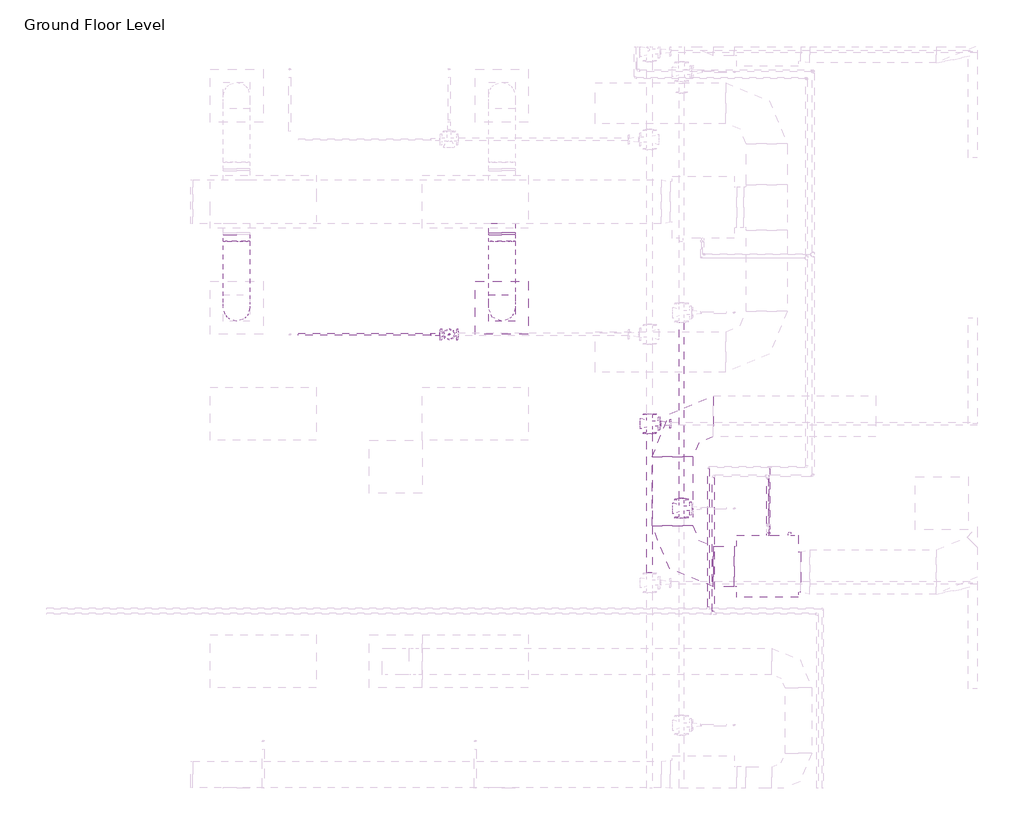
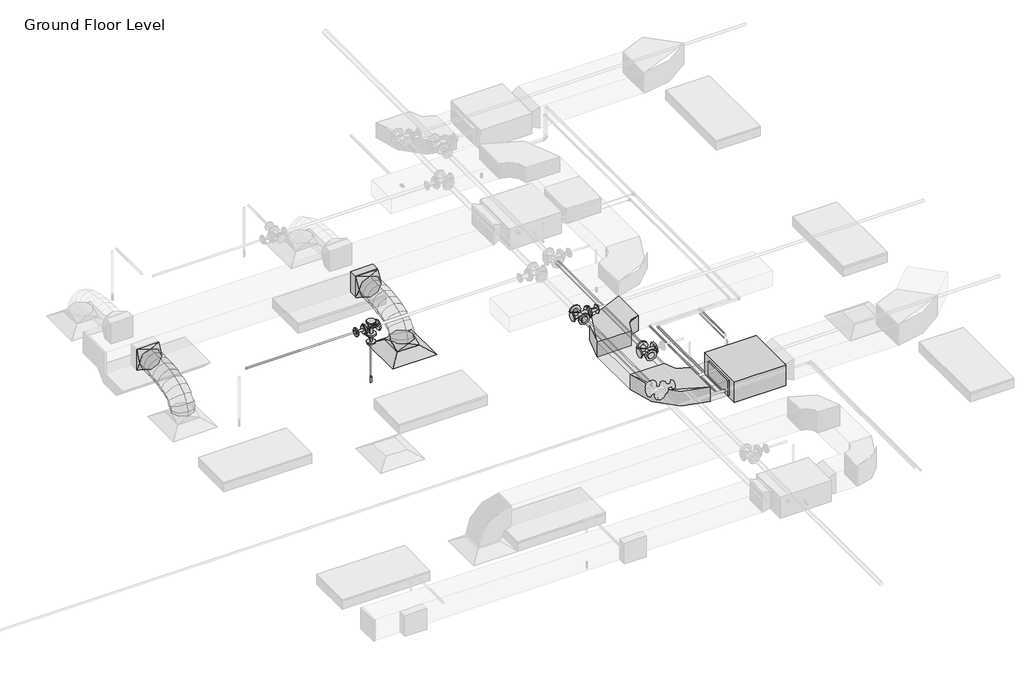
# One storey, part 59 of 73: 10 pipe segments, 7 pipe fittings, 6 duct fittings, 5 duct segments, 1 air terminal, 1 fire suppression terminal, 1 proxy.
"""IFC4 building model written with IfcOpenShell, lengths in millimetres."""

from ifc_helpers import new_model, si_unit, point, frame, frame_2d, origin, place, context, project, spatial, polyline, circle_curve, ellipse_curve, trimmed, segment, composite_curve, outline, extrude, transform, mapped, element, save
from ifc_brep_helpers import plane_surface, cylinder_surface, advanced_brep
from components import m_return_diffuser_600_x_600_face_300_x_300_connection_ff221211, fcu_daikin_iu_bad131e0, m_rectangular_elbow_radius_1_w_54c96895, m_rectangular_takeoff_standard_cb0ccb98, m_rectangular_to_round_transition_angle_45_degree_641efff0, m_sprinkler_dry_pendent_hosted_15_mm_dry_pendent_9bda8e11, m_elbow_generic_standard_2a704253, m_reducer_flanged_cs_class_150_standard_ccf252ad, m_reducer_flanged_cs_class_150_standard_a7631c35, m_tee_round_base_flanged_cs_class_150_standard_dd767e04, m_tee_round_base_flanged_cs_class_150_standard_7e5987a1, m_tee_round_base_flanged_cs_class_150_standard_ab36f383

model = new_model("IFC4")

# Units and contexts
model_context = context("Model", 3, world=origin())
ifc_project = project(units=[si_unit("LENGTHUNIT", "METRE", prefix="MILLI")], contexts=[model_context])

# Site, building, storey
site = spatial("IfcSite", under=ifc_project)
building = spatial("IfcBuilding", under=site)
storey = spatial("IfcBuildingStorey", under=building, Name="Ground Floor Level", Elevation=900.0)

# Air terminal
placement = place(None, origin())
m_return_diffuser_600_x_600_face_300_x_300_connection_shape = m_return_diffuser_600_x_600_face_300_x_300_connection_ff221211(model_context)
element("IfcAirTerminal", 1, ObjectType="M_Supply Diffuser : 600 x 600 Face 300 x 300 Connection", at=placement, inside=storey, context=model_context, shape_type="MappedRepresentation", body=[
    mapped(m_return_diffuser_600_x_600_face_300_x_300_connection_shape, transform((3962.7672395, 2935.2153534, 3650.0), x_axis=(1.0, 0.0, 0.0), y_axis=(0.0, 1.0, 0.0), z_axis=(0.0, 0.0, 1.0))),
])

# Proxy
fcu_daikin_iu_shape = fcu_daikin_iu_bad131e0(model_context)
element("IfcBuildingElementProxy", 2, Name="FCU-DAIKIN IU : 4.5kW, 230V/50Hz/1Ph", ObjectType="FCU-DAIKIN IU : 4.5kW, 230V/50Hz/1Ph", at=placement, inside=storey, context=model_context, shape_type="MappedRepresentation", body=[
    mapped(fcu_daikin_iu_shape, transform((6968.8139492, 9.6779527, 3934.0932729), x_axis=(0.0, 1.0, 0.0), y_axis=(-1.0, 0.0, 0.0), z_axis=(0.0, 0.0, 1.0))),
])

# Duct fittings
m_rectangular_elbow_radius_1_w_shape = m_rectangular_elbow_radius_1_w_54c96895(model_context)
element("IfcDuctFitting", 3, ObjectType="M_Rectangular Elbow - Radius : 1 W", at=placement, inside=storey, context=model_context, shape_type="MappedRepresentation", body=[
    mapped(m_rectangular_elbow_radius_1_w_shape, transform((5893.4139492, 9.6779527, 4075.2932729), x_axis=(0.0, -1.0, 0.0), y_axis=(1.0, 0.0, 0.0), z_axis=(0.0, 0.0, 1.0))),
])
element("IfcDuctFitting", 4, ObjectType="M_Rectangular Elbow - Radius : 1 W", at=placement, inside=storey, context=model_context, shape_type="MappedRepresentation", body=[
    mapped(m_rectangular_elbow_radius_1_w_shape, transform((5893.4139492, 1709.6783949, 4075.2932729), x_axis=(-1.0, 0.0, 0.0), y_axis=(0.0, -1.0, 0.0), z_axis=(0.0, 0.0, 1.0))),
])
m_rectangular_takeoff_standard_shape = m_rectangular_takeoff_standard_cb0ccb98(model_context)
element("IfcDuctFitting", 5, ObjectType="M_Rectangular Takeoff : Standard", at=placement, inside=storey, context=model_context, shape_type="MappedRepresentation", body=[
    mapped(m_rectangular_takeoff_standard_shape, transform((3962.7672395, 3885.0199167, 4099.9957478), x_axis=(0.0, -1.0, 0.0), y_axis=(-1.0, 0.0, 0.0), z_axis=(0.0, 0.0, -1.0))),
])
m_rectangular_to_round_transition_angle_45_degree_shape = m_rectangular_to_round_transition_angle_45_degree_641efff0(model_context)
element("IfcDuctFitting", 6, ObjectType="M_Rectangular to Round Transition - Angle : 45 Degree", at=placement, inside=storey, context=model_context, shape_type="MappedRepresentation", body=[
    mapped(m_rectangular_to_round_transition_angle_45_degree_shape, transform((3962.7672395, 2935.2153534, 3751.6), x_axis=(0.0, 0.0, 1.0), y_axis=(-1.0, 0.0, 0.0), z_axis=(0.0, -1.0, 0.0))),
])
element("IfcDuctFitting", 7, ObjectType="M_Rectangular to Round Transition - Angle : 45 Degree", at=placement, inside=storey, context=model_context, shape_type="MappedRepresentation", body=[
    mapped(m_rectangular_to_round_transition_angle_45_degree_shape, transform((3962.7672395, 3762.5555369, 4099.9957478), x_axis=(0.0, -1.0, 0.0), y_axis=(1.0, 0.0, 0.0), z_axis=(0.0, 0.0, 1.0))),
])
element("IfcDuctFitting", 8, ObjectType="M_Rectangular to Round Transition - Angle : 45 Degree", at=placement, inside=storey, context=model_context, shape_type="MappedRepresentation", body=[
    mapped(m_rectangular_to_round_transition_angle_45_degree_shape, transform((962.7672395, 3762.562617, 4099.9886676), x_axis=(0.0, -1.0, 0.0), y_axis=(1.0, 0.0, 0.0), z_axis=(0.0, 0.0, 1.0))),
])

# Duct segments
element("IfcDuctSegment", 9, ObjectType="Flex - Round", at=placement, inside=storey, context=model_context, shape_type="AdvancedBrep", body=[
    advanced_brep(
    [(4112.7672395, 2935.2153534, 3826.6), (3962.7672395, 2785.2153534, 3826.6), (3812.7672395, 2935.2153534, 3826.6), (3962.7672395, 3085.2153534, 3826.6), (4112.7672395, 2935.2153534, 3857.9378899), (3962.7672395, 2785.2153534, 3883.5813304), (3812.7672395, 2935.2153534, 3857.9378899), (3962.7672395, 3085.2153534, 3832.2944495), (4112.7672395, 2952.2314038, 3906.2506504), (3962.7672395, 2818.4936927, 3978.0667363), (3812.7672395, 2952.2314038, 3906.2506504), (3962.7672395, 3085.969115, 3834.4345644), (4112.7672395, 2999.4156052, 3968.7111185), (3962.7672395, 2895.2104338, 4079.6211427), (3812.7672395, 2999.4156052, 3968.7111185), (3962.7672395, 3103.6207766, 3857.8010943), (4112.7672395, 3070.9720324, 4016.0693384), (3962.7672395, 3002.0391237, 4150.3236188), (3812.7672395, 3070.9720324, 4016.0693384), (3962.7672395, 3139.9049411, 3881.8150579), (4112.7672395, 3161.1047605, 4050.413244), (3962.7672395, 3117.545251, 4194.3357287), (3812.7672395, 3161.1047605, 4050.413244), (3962.7672395, 3204.66427, 3906.4907592), (4112.7672395, 3264.0178643, 4073.8307693), (3962.7672395, 3237.4581287, 4221.6214946), (3812.7672395, 3264.0178643, 4073.8307693), (3962.7672395, 3290.5775999, 3926.0400441), (4112.7672395, 3373.9154189, 4088.4098484), (3962.7672395, 3358.7655495, 4237.7142137), (3812.7672395, 3373.9154189, 4088.4098484), (3962.7672395, 3389.0652883, 3939.1054831), (4112.7672395, 3485.0014992, 4096.2384151), (3962.7672395, 3477.4969747, 4246.0815706), (3812.7672395, 3485.0014992, 4096.2384151), (3962.7672395, 3492.5060238, 3946.3952596), (4112.7672395, 3591.4801802, 4099.4044036), (3962.7672395, 3588.7891594, 4249.3906816), (3812.7672395, 3591.4801802, 4099.4044036), (3962.7672395, 3594.1712011, 3949.4181256), (4112.7672395, 3687.5555369, 4099.9957478), (3962.7672395, 3688.47877, 3949.998589), (3812.7672395, 3687.5555369, 4099.9957478), (3962.7672395, 3686.6323039, 4249.9929065)],
    [
        (0, 1, circle_curve(frame((3962.7672395, 2935.2153534, 3826.6), z_axis=(0.0, 0.0, -1.0), x_axis=(1.0, 0.0, 0.0)), 150.0)),
        (1, 2, circle_curve(frame((3962.7672395, 2935.2153534, 3826.6), z_axis=(0.0, 0.0, -1.0), x_axis=(1.0, 0.0, 0.0)), 150.0)),
        (2, 3, circle_curve(frame((3962.7672395, 2935.2153534, 3826.6), z_axis=(0.0, 0.0, -1.0), x_axis=(1.0, 0.0, 0.0)), 150.0)),
        (3, 0, circle_curve(frame((3962.7672395, 2935.2153534, 3826.6), z_axis=(0.0, 0.0, -1.0), x_axis=(1.0, 0.0, 0.0)), 150.0)),
        (0, 4),
        (4, 5, ellipse_curve(frame((3962.7672395, 2935.2153534, 3857.9378899), z_axis=(0.0, -0.1685115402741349, -0.9856996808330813), x_axis=(0.0, 0.9856996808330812, -0.1685115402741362)), 152.1761678, 150.0)),
        (5, 1),
        (5, 6, ellipse_curve(frame((3962.7672395, 2935.2153534, 3857.9378899), z_axis=(0.0, -0.1685115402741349, -0.9856996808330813), x_axis=(0.0, 0.9856996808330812, -0.1685115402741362)), 152.1761678, 150.0)),
        (6, 2),
        (6, 7, ellipse_curve(frame((3962.7672395, 2935.2153534, 3857.9378899), z_axis=(0.0, -0.1685115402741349, -0.9856996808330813), x_axis=(0.0, 0.9856996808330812, -0.1685115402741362)), 152.1761678, 150.0)),
        (7, 3),
        (7, 4, ellipse_curve(frame((3962.7672395, 2935.2153534, 3857.9378899), z_axis=(0.0, -0.1685115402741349, -0.9856996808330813), x_axis=(0.0, 0.9856996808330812, -0.1685115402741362)), 152.1761678, 150.0)),
        (4, 8),
        (8, 9, ellipse_curve(frame((3962.7672395, 2952.2314038, 3906.2506504), z_axis=(0.0, -0.47309586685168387, -0.8810109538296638), x_axis=(0.0, 0.8810109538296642, -0.4730958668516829)), 151.8002819, 150.0)),
        (9, 5),
        (9, 10, ellipse_curve(frame((3962.7672395, 2952.2314038, 3906.2506504), z_axis=(0.0, -0.47309586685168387, -0.8810109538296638), x_axis=(0.0, 0.8810109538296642, -0.4730958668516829)), 151.8002819, 150.0)),
        (10, 6),
        (10, 11, ellipse_curve(frame((3962.7672395, 2952.2314038, 3906.2506504), z_axis=(0.0, -0.47309586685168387, -0.8810109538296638), x_axis=(0.0, 0.8810109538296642, -0.4730958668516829)), 151.8002819, 150.0)),
        (11, 7),
        (11, 8, ellipse_curve(frame((3962.7672395, 2952.2314038, 3906.2506504), z_axis=(0.0, -0.47309586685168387, -0.8810109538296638), x_axis=(0.0, 0.8810109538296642, -0.4730958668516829)), 151.8002819, 150.0)),
        (8, 12),
        (12, 13, ellipse_curve(frame((3962.7672395, 2999.4156052, 3968.7111185), z_axis=(0.0, -0.7287924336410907, -0.68473468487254), x_axis=(0.0, 0.6847346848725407, -0.7287924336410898)), 152.1832817, 150.0)),
        (13, 9),
        (13, 14, ellipse_curve(frame((3962.7672395, 2999.4156052, 3968.7111185), z_axis=(0.0, -0.7287924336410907, -0.68473468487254), x_axis=(0.0, 0.6847346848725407, -0.7287924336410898)), 152.1832817, 150.0)),
        (14, 10),
        (14, 15, ellipse_curve(frame((3962.7672395, 2999.4156052, 3968.7111185), z_axis=(0.0, -0.7287924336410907, -0.68473468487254), x_axis=(0.0, 0.6847346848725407, -0.7287924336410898)), 152.1832817, 150.0)),
        (15, 11),
        (15, 12, ellipse_curve(frame((3962.7672395, 2999.4156052, 3968.7111185), z_axis=(0.0, -0.7287924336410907, -0.68473468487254), x_axis=(0.0, 0.6847346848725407, -0.7287924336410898)), 152.1832817, 150.0)),
        (12, 16),
        (16, 17, ellipse_curve(frame((3962.7672395, 3070.9720324, 4016.0693384), z_axis=(0.0, -0.8895898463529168, -0.4567602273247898), x_axis=(0.0, 0.45676022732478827, -0.8895898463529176)), 150.9170558, 150.0)),
        (17, 13),
        (17, 18, ellipse_curve(frame((3962.7672395, 3070.9720324, 4016.0693384), z_axis=(0.0, -0.8895898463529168, -0.4567602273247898), x_axis=(0.0, 0.45676022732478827, -0.8895898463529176)), 150.9170558, 150.0)),
        (18, 14),
        (18, 19, ellipse_curve(frame((3962.7672395, 3070.9720324, 4016.0693384), z_axis=(0.0, -0.8895898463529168, -0.4567602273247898), x_axis=(0.0, 0.45676022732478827, -0.8895898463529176)), 150.9170558, 150.0)),
        (19, 15),
        (19, 16, ellipse_curve(frame((3962.7672395, 3070.9720324, 4016.0693384), z_axis=(0.0, -0.8895898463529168, -0.4567602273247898), x_axis=(0.0, 0.45676022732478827, -0.8895898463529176)), 150.9170558, 150.0)),
        (16, 20),
        (20, 21, ellipse_curve(frame((3962.7672395, 3161.1047605, 4050.413244), z_axis=(0.0, -0.9571228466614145, -0.28968233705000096), x_axis=(0.0, 0.2896823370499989, -0.9571228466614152)), 150.3699188, 150.0)),
        (21, 17),
        (21, 22, ellipse_curve(frame((3962.7672395, 3161.1047605, 4050.413244), z_axis=(0.0, -0.9571228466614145, -0.28968233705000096), x_axis=(0.0, 0.2896823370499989, -0.9571228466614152)), 150.3699188, 150.0)),
        (22, 18),
        (22, 23, ellipse_curve(frame((3962.7672395, 3161.1047605, 4050.413244), z_axis=(0.0, -0.9571228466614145, -0.28968233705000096), x_axis=(0.0, 0.2896823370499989, -0.9571228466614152)), 150.3699188, 150.0)),
        (23, 19),
        (23, 20, ellipse_curve(frame((3962.7672395, 3161.1047605, 4050.413244), z_axis=(0.0, -0.9571228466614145, -0.28968233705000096), x_axis=(0.0, 0.2896823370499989, -0.9571228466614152)), 150.3699188, 150.0)),
        (20, 24),
        (24, 25, ellipse_curve(frame((3962.7672395, 3264.0178643, 4073.8307693), z_axis=(0.0, -0.9842327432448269, -0.17687822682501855), x_axis=(0.0, 0.17687822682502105, -0.9842327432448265)), 150.1583099, 150.0)),
        (25, 21),
        (25, 26, ellipse_curve(frame((3962.7672395, 3264.0178643, 4073.8307693), z_axis=(0.0, -0.9842327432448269, -0.17687822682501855), x_axis=(0.0, 0.17687822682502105, -0.9842327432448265)), 150.1583099, 150.0)),
        (26, 22),
        (26, 27, ellipse_curve(frame((3962.7672395, 3264.0178643, 4073.8307693), z_axis=(0.0, -0.9842327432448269, -0.17687822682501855), x_axis=(0.0, 0.17687822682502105, -0.9842327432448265)), 150.1583099, 150.0)),
        (27, 23),
        (27, 24, ellipse_curve(frame((3962.7672395, 3264.0178643, 4073.8307693), z_axis=(0.0, -0.9842327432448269, -0.17687822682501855), x_axis=(0.0, 0.17687822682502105, -0.9842327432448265)), 150.1583099, 150.0)),
        (24, 28),
        (28, 29, ellipse_curve(frame((3962.7672395, 3373.9154189, 4088.4098484), z_axis=(0.0, -0.9948913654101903, -0.10095133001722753), x_axis=(0.0, 0.10095133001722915, -0.9948913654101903)), 150.0710233, 150.0)),
        (29, 25),
        (29, 30, ellipse_curve(frame((3962.7672395, 3373.9154189, 4088.4098484), z_axis=(0.0, -0.9948913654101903, -0.10095133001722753), x_axis=(0.0, 0.10095133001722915, -0.9948913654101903)), 150.0710233, 150.0)),
        (30, 26),
        (30, 31, ellipse_curve(frame((3962.7672395, 3373.9154189, 4088.4098484), z_axis=(0.0, -0.9948913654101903, -0.10095133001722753), x_axis=(0.0, 0.10095133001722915, -0.9948913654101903)), 150.0710233, 150.0)),
        (31, 27),
        (31, 28, ellipse_curve(frame((3962.7672395, 3373.9154189, 4088.4098484), z_axis=(0.0, -0.9948913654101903, -0.10095133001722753), x_axis=(0.0, 0.10095133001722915, -0.9948913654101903)), 150.0710233, 150.0)),
        (28, 32),
        (32, 33, ellipse_curve(frame((3962.7672395, 3485.0014992, 4096.2384151), z_axis=(0.0, -0.9987482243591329, -0.05001983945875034), x_axis=(0.0, 0.05001983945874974, -0.9987482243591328)), 150.0309606, 150.0)),
        (33, 29),
        (33, 34, ellipse_curve(frame((3962.7672395, 3485.0014992, 4096.2384151), z_axis=(0.0, -0.9987482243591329, -0.05001983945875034), x_axis=(0.0, 0.05001983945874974, -0.9987482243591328)), 150.0309606, 150.0)),
        (34, 30),
        (34, 35, ellipse_curve(frame((3962.7672395, 3485.0014992, 4096.2384151), z_axis=(0.0, -0.9987482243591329, -0.05001983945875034), x_axis=(0.0, 0.05001983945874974, -0.9987482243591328)), 150.0309606, 150.0)),
        (35, 31),
        (35, 32, ellipse_curve(frame((3962.7672395, 3485.0014992, 4096.2384151), z_axis=(0.0, -0.9987482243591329, -0.05001983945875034), x_axis=(0.0, 0.05001983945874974, -0.9987482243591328)), 150.0309606, 150.0)),
        (32, 36),
        (36, 37, ellipse_curve(frame((3962.7672395, 3591.4801802, 4099.4044036), z_axis=(0.0, -0.9998390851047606, -0.017938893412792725), x_axis=(0.0, 0.017938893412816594, -0.99983908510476)), 150.0104169, 150.0)),
        (37, 33),
        (37, 38, ellipse_curve(frame((3962.7672395, 3591.4801802, 4099.4044036), z_axis=(0.0, -0.9998390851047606, -0.017938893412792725), x_axis=(0.0, 0.017938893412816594, -0.99983908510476)), 150.0104169, 150.0)),
        (38, 34),
        (38, 39, ellipse_curve(frame((3962.7672395, 3591.4801802, 4099.4044036), z_axis=(0.0, -0.9998390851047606, -0.017938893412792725), x_axis=(0.0, 0.017938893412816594, -0.99983908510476)), 150.0104169, 150.0)),
        (39, 35),
        (39, 36, ellipse_curve(frame((3962.7672395, 3591.4801802, 4099.4044036), z_axis=(0.0, -0.9998390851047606, -0.017938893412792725), x_axis=(0.0, 0.017938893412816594, -0.99983908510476)), 150.0104169, 150.0)),
        (40, 41, circle_curve(frame((3962.7672395, 3687.5555369, 4099.9957478), z_axis=(0.0, 0.9999810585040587, 0.006154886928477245), x_axis=(1.0, 0.0, 0.0)), 150.0)),
        (41, 42, circle_curve(frame((3962.7672395, 3687.5555369, 4099.9957478), z_axis=(0.0, 0.9999810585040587, 0.006154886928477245), x_axis=(1.0, 0.0, 0.0)), 150.0)),
        (42, 43, circle_curve(frame((3962.7672395, 3687.5555369, 4099.9957478), z_axis=(0.0, 0.9999810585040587, 0.006154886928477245), x_axis=(1.0, 0.0, 0.0)), 150.0)),
        (43, 40, circle_curve(frame((3962.7672395, 3687.5555369, 4099.9957478), z_axis=(0.0, 0.9999810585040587, 0.006154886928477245), x_axis=(1.0, 0.0, 0.0)), 150.0)),
        (36, 40),
        (43, 37),
        (42, 38),
        (41, 39),
    ],
    [
        plane_surface(frame((3962.7672395, 2785.2153534, 3826.6), z_axis=(0.0, 0.0, -1.0), x_axis=(1.0, 0.0, 0.0))),
        cylinder_surface(frame((3962.7672395, 2935.2153534, 3826.6), z_axis=(0.0, 0.0, -1.0), x_axis=(1.0, 0.0, 0.0)), 150.0),
        cylinder_surface(frame((3962.7672395, 2935.2153534, 3857.9378899), z_axis=(0.0, -0.33220354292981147, -0.9432077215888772), x_axis=(1.0, 0.0, 0.0)), 150.0),
        cylinder_surface(frame((3962.7672395, 2952.2314038, 3906.2506504), z_axis=(0.0, -0.6027667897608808, -0.7979174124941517), x_axis=(1.0, 0.0, 0.0)), 150.0),
        cylinder_surface(frame((3962.7672395, 2999.4156052, 3968.7111185), z_axis=(0.0, -0.833906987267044, -0.5519050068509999), x_axis=(1.0, 0.0, 0.0)), 150.0),
        cylinder_surface(frame((3962.7672395, 3070.9720324, 4016.0693384), z_axis=(0.0, -0.9344614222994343, -0.35606439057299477), x_axis=(1.0, 0.0, 0.0)), 150.0),
        cylinder_surface(frame((3962.7672395, 3161.1047605, 4050.413244), z_axis=(0.0, -0.9750751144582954, -0.22187501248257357), x_axis=(1.0, 0.0, 0.0)), 150.0),
        cylinder_surface(frame((3962.7672395, 3264.0178643, 4073.8307693), z_axis=(0.0, -0.9913150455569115, -0.1315084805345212), x_axis=(1.0, 0.0, 0.0)), 150.0),
        cylinder_surface(frame((3962.7672395, 3373.9154189, 4088.4098484), z_axis=(0.0, -0.997525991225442, -0.07029862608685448), x_axis=(1.0, 0.0, 0.0)), 150.0),
        cylinder_surface(frame((3962.7672395, 3485.0014992, 4096.2384151), z_axis=(0.0, -0.9995582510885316, -0.029720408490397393), x_axis=(1.0, 0.0, 0.0)), 150.0),
        plane_surface(frame((3962.7672395, 3686.6323039, 4249.9929065), z_axis=(0.0, 0.9999810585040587, 0.006154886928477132), x_axis=(1.0, 0.0, 0.0))),
        cylinder_surface(frame((3962.7672395, 3591.4801802, 4099.4044036), z_axis=(0.0, -0.9999810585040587, -0.006154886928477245), x_axis=(1.0, 0.0, 0.0)), 150.0),
    ],
    [
        (0, [[1, 2, 3, 4]]),
        (1, [[-1, 5, 6, 7]]),
        (1, [[-2, -7, 8, 9]]),
        (1, [[-3, -9, 10, 11]]),
        (1, [[-4, -11, 12, -5]]),
        (2, [[-6, 13, 14, 15]]),
        (2, [[-8, -15, 16, 17]]),
        (2, [[-10, -17, 18, 19]]),
        (2, [[-12, -19, 20, -13]]),
        (3, [[-14, 21, 22, 23]]),
        (3, [[-16, -23, 24, 25]]),
        (3, [[-18, -25, 26, 27]]),
        (3, [[-20, -27, 28, -21]]),
        (4, [[-22, 29, 30, 31]]),
        (4, [[-24, -31, 32, 33]]),
        (4, [[-26, -33, 34, 35]]),
        (4, [[-28, -35, 36, -29]]),
        (5, [[-30, 37, 38, 39]]),
        (5, [[-32, -39, 40, 41]]),
        (5, [[-34, -41, 42, 43]]),
        (5, [[-36, -43, 44, -37]]),
        (6, [[-38, 45, 46, 47]]),
        (6, [[-40, -47, 48, 49]]),
        (6, [[-42, -49, 50, 51]]),
        (6, [[-44, -51, 52, -45]]),
        (7, [[-46, 53, 54, 55]]),
        (7, [[-48, -55, 56, 57]]),
        (7, [[-50, -57, 58, 59]]),
        (7, [[-52, -59, 60, -53]]),
        (8, [[-54, 61, 62, 63]]),
        (8, [[-56, -63, 64, 65]]),
        (8, [[-58, -65, 66, 67]]),
        (8, [[-60, -67, 68, -61]]),
        (9, [[-62, 69, 70, 71]]),
        (9, [[-64, -71, 72, 73]]),
        (9, [[-66, -73, 74, 75]]),
        (9, [[-68, -75, 76, -69]]),
        (10, [[77, 78, 79, 80]]),
        (11, [[-70, 81, -80, 82]]),
        (11, [[-72, -82, -79, 83]]),
        (11, [[-74, -83, -78, 84]]),
        (11, [[-76, -84, -77, -81]]),
    ],
),
])
element("IfcDuctSegment", 10, ObjectType="Flex - Round", at=placement, inside=storey, context=model_context, shape_type="AdvancedBrep", body=[
    advanced_brep(
    [(1112.7672395, 2935.2153534, 3826.6), (962.7672395, 2785.2153534, 3826.6), (812.7672395, 2935.2153534, 3826.6), (962.7672395, 3085.2153534, 3826.6), (1112.7672395, 2935.2153534, 3857.9381871), (962.7672395, 2785.2153534, 3883.5819907), (812.7672395, 2935.2153534, 3857.9381871), (962.7672395, 3085.2153534, 3832.2943835), (1112.7672395, 2952.2316002, 3906.2507795), (962.7672395, 2818.4943349, 3978.0678013), (812.7672395, 2952.2316002, 3906.2507795), (962.7672395, 3085.9688654, 3834.4337577), (1112.7672395, 2999.416336, 3968.7107945), (962.7672395, 2895.2123764, 4079.622042), (812.7672395, 2999.416336, 3968.7107945), (962.7672395, 3103.6202956, 3857.7995469), (1112.7672395, 3070.9735542, 4016.0681304), (962.7672395, 3002.0425552, 4150.3234022), (812.7672395, 3070.9735542, 4016.0681304), (962.7672395, 3139.9045533, 3881.8128585), (1112.7672395, 3161.1072481, 4050.4108726), (962.7672395, 3117.549826, 4194.3339853), (812.7672395, 3161.1072481, 4050.4108726), (962.7672395, 3204.6646702, 3906.4877598), (1112.7672395, 3264.0214108, 4073.8271066), (962.7672395, 3237.463654, 4221.618182), (812.7672395, 3264.0214108, 4073.8271066), (962.7672395, 3290.5791677, 3926.0360311), (1112.7672395, 3373.9200359, 4088.4049176), (962.7672395, 3358.7718863, 4237.7094524), (812.7672395, 3373.9200359, 4088.4049176), (962.7672395, 3389.0681854, 3939.1003829), (1112.7672395, 3485.0071164, 4096.2323912), (962.7672395, 3477.5039298, 4246.0756092), (812.7672395, 3485.0071164, 4096.2323912), (962.7672395, 3492.5103029, 3946.3891733), (1112.7672395, 3591.4866457, 4099.3976128), (962.7672395, 3588.796411, 4249.383901), (812.7672395, 3591.4866457, 4099.3976128), (962.7672395, 3594.1768803, 3949.4113245), (1112.7672395, 3687.562617, 4099.9886676), (962.7672395, 3688.4853925, 3949.991506), (812.7672395, 3687.562617, 4099.9886676), (962.7672395, 3686.6398415, 4249.9858292)],
    [
        (0, 1, circle_curve(frame((962.7672395, 2935.2153534, 3826.6), z_axis=(0.0, 0.0, -1.0), x_axis=(1.0, 0.0, 0.0)), 150.0)),
        (1, 2, circle_curve(frame((962.7672395, 2935.2153534, 3826.6), z_axis=(0.0, 0.0, -1.0), x_axis=(1.0, 0.0, 0.0)), 150.0)),
        (2, 3, circle_curve(frame((962.7672395, 2935.2153534, 3826.6), z_axis=(0.0, 0.0, -1.0), x_axis=(1.0, 0.0, 0.0)), 150.0)),
        (3, 0, circle_curve(frame((962.7672395, 2935.2153534, 3826.6), z_axis=(0.0, 0.0, -1.0), x_axis=(1.0, 0.0, 0.0)), 150.0)),
        (0, 4),
        (4, 5, ellipse_curve(frame((962.7672395, 2935.2153534, 3857.9381871), z_axis=(0.0, -0.16851385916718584, -0.9856992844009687), x_axis=(0.0, 0.9856992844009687, -0.16851385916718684)), 152.176229, 150.0)),
        (5, 1),
        (5, 6, ellipse_curve(frame((962.7672395, 2935.2153534, 3857.9381871), z_axis=(0.0, -0.16851385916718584, -0.9856992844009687), x_axis=(0.0, 0.9856992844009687, -0.16851385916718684)), 152.176229, 150.0)),
        (6, 2),
        (6, 7, ellipse_curve(frame((962.7672395, 2935.2153534, 3857.9381871), z_axis=(0.0, -0.16851385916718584, -0.9856992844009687), x_axis=(0.0, 0.9856992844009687, -0.16851385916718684)), 152.176229, 150.0)),
        (7, 3),
        (7, 4, ellipse_curve(frame((962.7672395, 2935.2153534, 3857.9381871), z_axis=(0.0, -0.16851385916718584, -0.9856992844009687), x_axis=(0.0, 0.9856992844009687, -0.16851385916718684)), 152.176229, 150.0)),
        (4, 8),
        (8, 9, ellipse_curve(frame((962.7672395, 2952.2316002, 3906.2507795), z_axis=(0.0, -0.47310187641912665, -0.8810077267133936), x_axis=(0.0, 0.881007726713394, -0.47310187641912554)), 151.8003318, 150.0)),
        (9, 5),
        (9, 10, ellipse_curve(frame((962.7672395, 2952.2316002, 3906.2507795), z_axis=(0.0, -0.47310187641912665, -0.8810077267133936), x_axis=(0.0, 0.881007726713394, -0.47310187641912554)), 151.8003318, 150.0)),
        (10, 6),
        (10, 11, ellipse_curve(frame((962.7672395, 2952.2316002, 3906.2507795), z_axis=(0.0, -0.47310187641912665, -0.8810077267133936), x_axis=(0.0, 0.881007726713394, -0.47310187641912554)), 151.8003318, 150.0)),
        (11, 7),
        (11, 8, ellipse_curve(frame((962.7672395, 2952.2316002, 3906.2507795), z_axis=(0.0, -0.47310187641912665, -0.8810077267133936), x_axis=(0.0, 0.881007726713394, -0.47310187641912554)), 151.8003318, 150.0)),
        (8, 12),
        (12, 13, ellipse_curve(frame((962.7672395, 2999.416336, 3968.7107945), z_axis=(0.0, -0.7288001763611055, -0.6847264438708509), x_axis=(0.0, 0.6847264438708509, -0.7288001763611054)), 152.1833434, 150.0)),
        (13, 9),
        (13, 14, ellipse_curve(frame((962.7672395, 2999.416336, 3968.7107945), z_axis=(0.0, -0.7288001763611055, -0.6847264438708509), x_axis=(0.0, 0.6847264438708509, -0.7288001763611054)), 152.1833434, 150.0)),
        (14, 10),
        (14, 15, ellipse_curve(frame((962.7672395, 2999.416336, 3968.7107945), z_axis=(0.0, -0.7288001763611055, -0.6847264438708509), x_axis=(0.0, 0.6847264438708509, -0.7288001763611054)), 152.1833434, 150.0)),
        (15, 11),
        (15, 12, ellipse_curve(frame((962.7672395, 2999.416336, 3968.7107945), z_axis=(0.0, -0.7288001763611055, -0.6847264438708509), x_axis=(0.0, 0.6847264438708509, -0.7288001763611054)), 152.1833434, 150.0)),
        (12, 16),
        (16, 17, ellipse_curve(frame((962.7672395, 3070.9735542, 4016.0681304), z_axis=(0.0, -0.8895963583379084, -0.45674754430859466), x_axis=(0.0, 0.4567475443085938, -0.8895963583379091)), 150.9170655, 150.0)),
        (17, 13),
        (17, 18, ellipse_curve(frame((962.7672395, 3070.9735542, 4016.0681304), z_axis=(0.0, -0.8895963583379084, -0.45674754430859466), x_axis=(0.0, 0.4567475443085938, -0.8895963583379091)), 150.9170655, 150.0)),
        (18, 14),
        (18, 19, ellipse_curve(frame((962.7672395, 3070.9735542, 4016.0681304), z_axis=(0.0, -0.8895963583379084, -0.45674754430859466), x_axis=(0.0, 0.4567475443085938, -0.8895963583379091)), 150.9170655, 150.0)),
        (19, 15),
        (19, 16, ellipse_curve(frame((962.7672395, 3070.9735542, 4016.0681304), z_axis=(0.0, -0.8895963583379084, -0.45674754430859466), x_axis=(0.0, 0.4567475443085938, -0.8895963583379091)), 150.9170655, 150.0)),
        (16, 20),
        (20, 21, ellipse_curve(frame((962.7672395, 3161.1072481, 4050.4108726), z_axis=(0.0, -0.9571270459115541, -0.2896684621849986), x_axis=(0.0, 0.2896684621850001, -0.9571270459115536)), 150.3699152, 150.0)),
        (21, 17),
        (21, 22, ellipse_curve(frame((962.7672395, 3161.1072481, 4050.4108726), z_axis=(0.0, -0.9571270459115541, -0.2896684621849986), x_axis=(0.0, 0.2896684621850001, -0.9571270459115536)), 150.3699152, 150.0)),
        (22, 18),
        (22, 23, ellipse_curve(frame((962.7672395, 3161.1072481, 4050.4108726), z_axis=(0.0, -0.9571270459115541, -0.2896684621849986), x_axis=(0.0, 0.2896684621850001, -0.9571270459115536)), 150.3699152, 150.0)),
        (23, 19),
        (23, 20, ellipse_curve(frame((962.7672395, 3161.1072481, 4050.4108726), z_axis=(0.0, -0.9571270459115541, -0.2896684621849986), x_axis=(0.0, 0.2896684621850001, -0.9571270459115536)), 150.3699152, 150.0)),
        (20, 24),
        (24, 25, ellipse_curve(frame((962.7672395, 3264.0214108, 4073.8271066), z_axis=(0.0, -0.984235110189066, -0.1768650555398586), x_axis=(0.0, 0.1768650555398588, -0.984235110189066)), 150.1583045, 150.0)),
        (25, 21),
        (25, 26, ellipse_curve(frame((962.7672395, 3264.0214108, 4073.8271066), z_axis=(0.0, -0.984235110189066, -0.1768650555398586), x_axis=(0.0, 0.1768650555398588, -0.984235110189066)), 150.1583045, 150.0)),
        (26, 22),
        (26, 27, ellipse_curve(frame((962.7672395, 3264.0214108, 4073.8271066), z_axis=(0.0, -0.984235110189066, -0.1768650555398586), x_axis=(0.0, 0.1768650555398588, -0.984235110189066)), 150.1583045, 150.0)),
        (27, 23),
        (27, 24, ellipse_curve(frame((962.7672395, 3264.0214108, 4073.8271066), z_axis=(0.0, -0.984235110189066, -0.1768650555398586), x_axis=(0.0, 0.1768650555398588, -0.984235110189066)), 150.1583045, 150.0)),
        (24, 28),
        (28, 29, ellipse_curve(frame((962.7672395, 3373.9200359, 4088.4049176), z_axis=(0.0, -0.9948925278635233, -0.10093987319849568), x_axis=(0.0, 0.10093987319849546, -0.9948925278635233)), 150.0710183, 150.0)),
        (29, 25),
        (29, 30, ellipse_curve(frame((962.7672395, 3373.9200359, 4088.4049176), z_axis=(0.0, -0.9948925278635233, -0.10093987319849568), x_axis=(0.0, 0.10093987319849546, -0.9948925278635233)), 150.0710183, 150.0)),
        (30, 26),
        (30, 31, ellipse_curve(frame((962.7672395, 3373.9200359, 4088.4049176), z_axis=(0.0, -0.9948925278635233, -0.10093987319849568), x_axis=(0.0, 0.10093987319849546, -0.9948925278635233)), 150.0710183, 150.0)),
        (31, 27),
        (31, 28, ellipse_curve(frame((962.7672395, 3373.9200359, 4088.4049176), z_axis=(0.0, -0.9948925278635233, -0.10093987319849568), x_axis=(0.0, 0.10093987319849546, -0.9948925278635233)), 150.0710183, 150.0)),
        (28, 32),
        (32, 33, ellipse_curve(frame((962.7672395, 3485.0071164, 4096.2323912), z_axis=(0.0, -0.9987486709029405, -0.050010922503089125), x_axis=(0.0, 0.05001092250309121, -0.9987486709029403)), 150.0309561, 150.0)),
        (33, 29),
        (33, 34, ellipse_curve(frame((962.7672395, 3485.0071164, 4096.2323912), z_axis=(0.0, -0.9987486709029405, -0.050010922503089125), x_axis=(0.0, 0.05001092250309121, -0.9987486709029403)), 150.0309561, 150.0)),
        (34, 30),
        (34, 35, ellipse_curve(frame((962.7672395, 3485.0071164, 4096.2323912), z_axis=(0.0, -0.9987486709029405, -0.050010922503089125), x_axis=(0.0, 0.05001092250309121, -0.9987486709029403)), 150.0309561, 150.0)),
        (35, 31),
        (35, 32, ellipse_curve(frame((962.7672395, 3485.0071164, 4096.2323912), z_axis=(0.0, -0.9987486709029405, -0.050010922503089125), x_axis=(0.0, 0.05001092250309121, -0.9987486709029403)), 150.0309561, 150.0)),
        (32, 36),
        (36, 37, ellipse_curve(frame((962.7672395, 3591.4866457, 4099.3976128), z_axis=(0.0, -0.9998391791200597, -0.017933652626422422), x_axis=(0.0, 0.01793365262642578, -0.9998391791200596)), 150.0104131, 150.0)),
        (37, 33),
        (37, 38, ellipse_curve(frame((962.7672395, 3591.4866457, 4099.3976128), z_axis=(0.0, -0.9998391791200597, -0.017933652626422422), x_axis=(0.0, 0.01793365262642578, -0.9998391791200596)), 150.0104131, 150.0)),
        (38, 34),
        (38, 39, ellipse_curve(frame((962.7672395, 3591.4866457, 4099.3976128), z_axis=(0.0, -0.9998391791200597, -0.017933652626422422), x_axis=(0.0, 0.01793365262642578, -0.9998391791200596)), 150.0104131, 150.0)),
        (39, 35),
        (39, 36, ellipse_curve(frame((962.7672395, 3591.4866457, 4099.3976128), z_axis=(0.0, -0.9998391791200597, -0.017933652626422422), x_axis=(0.0, 0.01793365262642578, -0.9998391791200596)), 150.0104131, 150.0)),
        (40, 41, circle_curve(frame((962.7672395, 3687.562617, 4099.9886676), z_axis=(0.0, 0.9999810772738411, 0.006151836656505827), x_axis=(1.0, 0.0, 0.0)), 150.0)),
        (41, 42, circle_curve(frame((962.7672395, 3687.562617, 4099.9886676), z_axis=(0.0, 0.9999810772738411, 0.006151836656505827), x_axis=(1.0, 0.0, 0.0)), 150.0)),
        (42, 43, circle_curve(frame((962.7672395, 3687.562617, 4099.9886676), z_axis=(0.0, 0.9999810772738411, 0.006151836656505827), x_axis=(1.0, 0.0, 0.0)), 150.0)),
        (43, 40, circle_curve(frame((962.7672395, 3687.562617, 4099.9886676), z_axis=(0.0, 0.9999810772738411, 0.006151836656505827), x_axis=(1.0, 0.0, 0.0)), 150.0)),
        (36, 40),
        (43, 37),
        (42, 38),
        (41, 39),
    ],
    [
        plane_surface(frame((962.7672395, 2785.2153534, 3826.6), z_axis=(0.0, 0.0, -1.0), x_axis=(1.0, 0.0, 0.0))),
        cylinder_surface(frame((962.7672395, 2935.2153534, 3826.6), z_axis=(0.0, 0.0, -1.0), x_axis=(1.0, 0.0, 0.0)), 150.0),
        cylinder_surface(frame((962.7672395, 2935.2153534, 3857.9381871), z_axis=(0.0, -0.33220798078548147, -0.9432061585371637), x_axis=(1.0, 0.0, 0.0)), 150.0),
        cylinder_surface(frame((962.7672395, 2952.2316002, 3906.2507795), z_axis=(0.0, -0.6027739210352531, -0.7979120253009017), x_axis=(1.0, 0.0, 0.0)), 150.0),
        cylinder_surface(frame((962.7672395, 2999.416336, 3968.7107945), z_axis=(0.0, -0.83391453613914, -0.5518936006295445), x_axis=(1.0, 0.0, 0.0)), 150.0),
        cylinder_surface(frame((962.7672395, 3070.9735542, 4016.0681304), z_axis=(0.0, -0.9344667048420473, -0.35605052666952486), x_axis=(1.0, 0.0, 0.0)), 150.0),
        cylinder_surface(frame((962.7672395, 3161.1072481, 4050.4108726), z_axis=(0.0, -0.975078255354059, -0.22186120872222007), x_axis=(1.0, 0.0, 0.0)), 150.0),
        cylinder_surface(frame((962.7672395, 3264.0214108, 4073.8271066), z_axis=(0.0, -0.9913167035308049, -0.1314959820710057), x_axis=(1.0, 0.0, 0.0)), 150.0),
        cylinder_surface(frame((962.7672395, 3373.9200359, 4088.4049176), z_axis=(0.0, -0.9975267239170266, -0.07028822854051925), x_axis=(1.0, 0.0, 0.0)), 150.0),
        cylinder_surface(frame((962.7672395, 3485.0071164, 4096.2323912), z_axis=(0.0, -0.9995584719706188, -0.029712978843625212), x_axis=(1.0, 0.0, 0.0)), 150.0),
        plane_surface(frame((962.7672395, 3686.6398415, 4249.9858292), z_axis=(0.0, 0.9999810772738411, 0.00615183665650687), x_axis=(1.0, 0.0, 0.0))),
        cylinder_surface(frame((962.7672395, 3591.4866457, 4099.3976128), z_axis=(0.0, -0.9999810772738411, -0.006151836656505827), x_axis=(1.0, 0.0, 0.0)), 150.0),
    ],
    [
        (0, [[1, 2, 3, 4]]),
        (1, [[-1, 5, 6, 7]]),
        (1, [[-2, -7, 8, 9]]),
        (1, [[-3, -9, 10, 11]]),
        (1, [[-4, -11, 12, -5]]),
        (2, [[-6, 13, 14, 15]]),
        (2, [[-8, -15, 16, 17]]),
        (2, [[-10, -17, 18, 19]]),
        (2, [[-12, -19, 20, -13]]),
        (3, [[-14, 21, 22, 23]]),
        (3, [[-16, -23, 24, 25]]),
        (3, [[-18, -25, 26, 27]]),
        (3, [[-20, -27, 28, -21]]),
        (4, [[-22, 29, 30, 31]]),
        (4, [[-24, -31, 32, 33]]),
        (4, [[-26, -33, 34, 35]]),
        (4, [[-28, -35, 36, -29]]),
        (5, [[-30, 37, 38, 39]]),
        (5, [[-32, -39, 40, 41]]),
        (5, [[-34, -41, 42, 43]]),
        (5, [[-36, -43, 44, -37]]),
        (6, [[-38, 45, 46, 47]]),
        (6, [[-40, -47, 48, 49]]),
        (6, [[-42, -49, 50, 51]]),
        (6, [[-44, -51, 52, -45]]),
        (7, [[-46, 53, 54, 55]]),
        (7, [[-48, -55, 56, 57]]),
        (7, [[-50, -57, 58, 59]]),
        (7, [[-52, -59, 60, -53]]),
        (8, [[-54, 61, 62, 63]]),
        (8, [[-56, -63, 64, 65]]),
        (8, [[-58, -65, 66, 67]]),
        (8, [[-60, -67, 68, -61]]),
        (9, [[-62, 69, 70, 71]]),
        (9, [[-64, -71, 72, 73]]),
        (9, [[-66, -73, 74, 75]]),
        (9, [[-68, -75, 76, -69]]),
        (10, [[77, 78, 79, 80]]),
        (11, [[-70, 81, -80, 82]]),
        (11, [[-72, -82, -79, 83]]),
        (11, [[-74, -83, -78, 84]]),
        (11, [[-76, -84, -77, -81]]),
    ],
),
])
element("IfcDuctSegment", 11, ObjectType="Radius Elbows / Taps", at=placement, inside=storey, context=model_context, shape_type="SweptSolid", body=[
    extrude(outline(polyline([(6593.4139492, 240.6154527), (6593.4139492, -221.2595473), (6355.2889492, -221.2595473), (6355.2889492, 240.6154527), (6593.4139492, 240.6154527)])), frame((0.0, 0.0, 3968.1432729), z_axis=(0.0, 0.0, 1.0), x_axis=(1.0, 0.0, 0.0)), (0.0, 0.0, 1.0), 214.3),
])
element("IfcDuctSegment", 12, ObjectType="Radius Elbows / Taps", at=placement, inside=storey, context=model_context, shape_type="SweptSolid", body=[
    extrude(outline(polyline([(6124.3514492, 471.5529527), (5662.4764492, 471.5529527), (5662.4764492, 1247.8033949), (6124.3514492, 1247.8033949), (6124.3514492, 471.5529527)])), frame((0.0, 0.0, 3968.1432729), z_axis=(0.0, 0.0, 1.0), x_axis=(1.0, 0.0, 0.0)), (0.0, 0.0, 1.0), 214.3),
])
element("IfcDuctSegment", 13, ObjectType="Radius Elbows / Taps", at=placement, inside=storey, context=model_context, shape_type="SweptSolid", body=[
    extrude(outline(polyline([(3812.7672395, 3783.4199167), (4112.7672395, 3783.4199167), (4112.7672395, 3762.5555369), (3812.7672395, 3762.5555369), (3812.7672395, 3783.4199167)])), frame((0.0, 0.0, 3949.9957478), z_axis=(0.0, 0.0, 1.0), x_axis=(1.0, 0.0, 0.0)), (0.0, 0.0, 1.0), 300.0),
])

# Fire suppression terminal
m_sprinkler_dry_pendent_hosted_15_mm_dry_pendent_shape = m_sprinkler_dry_pendent_hosted_15_mm_dry_pendent_9bda8e11(model_context)
element("IfcFireSuppressionTerminal", 14, ObjectType="M_Sprinkler - Dry - Pendent - Hosted : 15 mm Dry Pendent", at=placement, inside=storey, context=model_context, shape_type="MappedRepresentation", body=[
    mapped(m_sprinkler_dry_pendent_hosted_15_mm_dry_pendent_shape, transform((3367.3772563, 2635.2153534, 3650.0), x_axis=(1.0, 0.0, 0.0), y_axis=(0.0, -1.0, 0.0), z_axis=(0.0, 0.0, -1.0))),
])

# Pipe fittings
m_elbow_generic_standard_shape = m_elbow_generic_standard_2a704253(model_context)
element("IfcPipeFitting", 15, ObjectType="M_Elbow - Generic : Standard", at=placement, inside=storey, context=model_context, shape_type="MappedRepresentation", body=[
    mapped(m_elbow_generic_standard_shape, transform((6993.8139492, 474.3157767, 4084.8932729), x_axis=(0.0, 1.0, 0.0), y_axis=(0.0, 0.0, 1.0), z_axis=(1.0, 0.0, 0.0))),
])
m_reducer_flanged_cs_class_150_standard_shape = m_reducer_flanged_cs_class_150_standard_ccf252ad(model_context)
element("IfcPipeFitting", 16, ObjectType="M_Reducer - Flanged - CS - Class 150 : Standard", at=placement, inside=storey, context=model_context, shape_type="MappedRepresentation", body=[
    mapped(m_reducer_flanged_cs_class_150_standard_shape, transform((3266.6686625, 2635.2153534, 4360.0), x_axis=(-1.0, 0.0, 0.0), y_axis=(0.0, 0.0, 1.0), z_axis=(0.0, 1.0, 0.0))),
])
element("IfcPipeFitting", 17, ObjectType="M_Reducer - Flanged - CS - Class 150 : Standard", at=placement, inside=storey, context=model_context, shape_type="MappedRepresentation", body=[
    mapped(m_reducer_flanged_cs_class_150_standard_shape, transform((3367.3772563, 2635.2153534, 4259.2914062), x_axis=(0.0, 0.0, -1.0), y_axis=(-1.0, 0.0, 0.0), z_axis=(0.0, 1.0, 0.0))),
])
m_reducer_flanged_cs_class_150_standard_2_shape = m_reducer_flanged_cs_class_150_standard_a7631c35(model_context)
element("IfcPipeFitting", 18, ObjectType="M_Reducer - Flanged - CS - Class 150 : Standard", at=placement, inside=storey, context=model_context, shape_type="MappedRepresentation", body=[
    mapped(m_reducer_flanged_cs_class_150_standard_2_shape, transform((5749.869498, 1625.2153534, 4360.0), x_axis=(1.0, 0.0, 0.0), y_axis=(0.0, 0.0, 1.0), z_axis=(0.0, -1.0, 0.0))),
])
m_tee_round_base_flanged_cs_class_150_standard_shape = m_tee_round_base_flanged_cs_class_150_standard_dd767e04(model_context)
element("IfcPipeFitting", 19, ObjectType="M_Tee Round Base - Flanged - CS - Class 150 : Standard", at=placement, inside=storey, context=model_context, shape_type="MappedRepresentation", body=[
    mapped(m_tee_round_base_flanged_cs_class_150_standard_shape, transform((5635.869498, 1625.2153534, 4360.0), x_axis=(0.0, 1.0, 0.0), y_axis=(-1.0, 0.0, 0.0), z_axis=(0.0, 0.0, 1.0))),
])
m_tee_round_base_flanged_cs_class_150_standard_2_shape = m_tee_round_base_flanged_cs_class_150_standard_7e5987a1(model_context)
element("IfcPipeFitting", 20, ObjectType="M_Tee Round Base - Flanged - CS - Class 150 : Standard", at=placement, inside=storey, context=model_context, shape_type="MappedRepresentation", body=[
    mapped(m_tee_round_base_flanged_cs_class_150_standard_2_shape, transform((3367.3772563, 2635.2153534, 4360.0), x_axis=(-1.0, 0.0, 0.0), y_axis=(0.0, 0.0, 1.0), z_axis=(0.0, 1.0, 0.0))),
])
m_tee_round_base_flanged_cs_class_150_standard_3_shape = m_tee_round_base_flanged_cs_class_150_standard_ab36f383(model_context)
element("IfcPipeFitting", 21, ObjectType="M_Tee Round Base - Flanged - CS - Class 150 : Standard", at=placement, inside=storey, context=model_context, shape_type="MappedRepresentation", body=[
    mapped(m_tee_round_base_flanged_cs_class_150_standard_3_shape, transform((5997.057812, 666.6492065, 4291.0943441), x_axis=(0.0, 1.0, 0.0), y_axis=(-1.0, 0.0, 0.0), z_axis=(0.0, 0.0, 1.0))),
])

# Pipe segments
element("IfcPipeSegment", 22, ObjectType="Copper", at=placement, inside=storey, context=model_context, shape_type="SweptSolid", body=[
    extrude(outline(composite_curve([segment(trimmed(circle_curve(frame_2d((4265.0, 6302.4595152)), 8.1), [point((4265.0, 6294.3595152))], [point((4256.9, 6302.4595152))], False, "CARTESIAN"), True, "CONTINUOUS"), segment(trimmed(circle_curve(frame_2d((4265.0, 6302.4595152)), 8.1), [point((4256.9, 6302.4595152))], [point((4265.0, 6310.5595152))], False, "CARTESIAN"), True, "CONTINUOUS"), segment(trimmed(circle_curve(frame_2d((4265.0, 6302.4595152)), 8.1), [point((4265.0, 6310.5595152))], [point((4273.1, 6302.4595152))], False, "CARTESIAN"), True, "CONTINUOUS"), segment(trimmed(circle_curve(frame_2d((4265.0, 6302.4595152)), 8.1), [point((4273.1, 6302.4595152))], [point((4265.0, 6294.3595152))], False, "CARTESIAN"), True, "CONTINUOUS")], self_intersect=False)), frame((0.0, -443.7564862, 0.0), z_axis=(0.0, 1.0, 0.0), x_axis=(0.0, 0.0, 1.0)), (0.0, 0.0, 1.0), 1561.9),
])
element("IfcPipeSegment", 23, ObjectType="Copper", at=placement, inside=storey, context=model_context, shape_type="SweptSolid", body=[
    extrude(outline(composite_curve([segment(trimmed(circle_curve(frame_2d((4300.0, 6355.3210494)), 11.5), [point((4300.0, 6343.8210494))], [point((4288.5, 6355.3210494))], False, "CARTESIAN"), True, "CONTINUOUS"), segment(trimmed(circle_curve(frame_2d((4300.0, 6355.3210494)), 11.5), [point((4288.5, 6355.3210494))], [point((4300.0, 6366.8210494))], False, "CARTESIAN"), True, "CONTINUOUS"), segment(trimmed(circle_curve(frame_2d((4300.0, 6355.3210494)), 11.5), [point((4300.0, 6366.8210494))], [point((4311.5, 6355.3210494))], False, "CARTESIAN"), True, "CONTINUOUS"), segment(trimmed(circle_curve(frame_2d((4300.0, 6355.3210494)), 11.5), [point((4311.5, 6355.3210494))], [point((4300.0, 6343.8210494))], False, "CARTESIAN"), True, "CONTINUOUS")], self_intersect=False)), frame((0.0, -498.5901455, 0.0), z_axis=(0.0, 1.0, 0.0), x_axis=(0.0, 0.0, 1.0)), (0.0, 0.0, 1.0), 1515.55),
])
element("IfcPipeSegment", 24, ObjectType="Copper", at=placement, inside=storey, context=model_context, shape_type="SweptSolid", body=[
    extrude(outline(composite_curve([segment(trimmed(circle_curve(frame_2d((4200.0, 6993.8139492)), 3.35), [point((4200.0, 6997.1639492))], [point((4203.35, 6993.8139492))], False, "CARTESIAN"), True, "CONTINUOUS"), segment(trimmed(circle_curve(frame_2d((4200.0, 6993.8139492)), 3.35), [point((4203.35, 6993.8139492))], [point((4200.0, 6990.4639492))], False, "CARTESIAN"), True, "CONTINUOUS"), segment(trimmed(circle_curve(frame_2d((4200.0, 6993.8139492)), 3.35), [point((4200.0, 6990.4639492))], [point((4196.65, 6993.8139492))], False, "CARTESIAN"), True, "CONTINUOUS"), segment(trimmed(circle_curve(frame_2d((4200.0, 6993.8139492)), 3.35), [point((4196.65, 6993.8139492))], [point((4200.0, 6997.1639492))], False, "CARTESIAN"), True, "CONTINUOUS")], self_intersect=False)), frame((0.0, 485.4532767, 0.0), z_axis=(0.0, 1.0, 0.0), x_axis=(0.0, 0.0, 1.0)), (0.0, 0.0, 1.0), 637.4277371),
])
element("IfcPipeSegment", 25, ObjectType="Copper", at=placement, inside=storey, context=model_context, shape_type="SweptSolid", body=[
    extrude(outline(composite_curve([segment(trimmed(circle_curve(frame_2d((4300.0, 6968.8139492)), 6.5), [point((4300.0, 6962.3139492))], [point((4293.5, 6968.8139492))], False, "CARTESIAN"), True, "CONTINUOUS"), segment(trimmed(circle_curve(frame_2d((4300.0, 6968.8139492)), 6.5), [point((4293.5, 6968.8139492))], [point((4300.0, 6975.3139492))], False, "CARTESIAN"), True, "CONTINUOUS"), segment(trimmed(circle_curve(frame_2d((4300.0, 6968.8139492)), 6.5), [point((4300.0, 6975.3139492))], [point((4306.5, 6968.8139492))], False, "CARTESIAN"), True, "CONTINUOUS"), segment(trimmed(circle_curve(frame_2d((4300.0, 6968.8139492)), 6.5), [point((4306.5, 6968.8139492))], [point((4300.0, 6962.3139492))], False, "CARTESIAN"), True, "CONTINUOUS")], self_intersect=False)), frame((0.0, 491.7533847, 0.0), z_axis=(0.0, 1.0, 0.0), x_axis=(0.0, 0.0, 1.0)), (0.0, 0.0, 1.0), 512.5064698),
])
element("IfcPipeSegment", 26, ObjectType="Copper", at=placement, inside=storey, context=model_context, shape_type="SweptSolid", body=[
    extrude(outline(composite_curve([segment(trimmed(circle_curve(frame_2d((4084.8932729, 6993.8139492)), 3.35), [point((4084.8932729, 6997.1639492))], [point((4088.2432729, 6993.8139492))], False, "CARTESIAN"), True, "CONTINUOUS"), segment(trimmed(circle_curve(frame_2d((4084.8932729, 6993.8139492)), 3.35), [point((4088.2432729, 6993.8139492))], [point((4084.8932729, 6990.4639492))], False, "CARTESIAN"), True, "CONTINUOUS"), segment(trimmed(circle_curve(frame_2d((4084.8932729, 6993.8139492)), 3.35), [point((4084.8932729, 6990.4639492))], [point((4081.5432729, 6993.8139492))], False, "CARTESIAN"), True, "CONTINUOUS"), segment(trimmed(circle_curve(frame_2d((4084.8932729, 6993.8139492)), 3.35), [point((4081.5432729, 6993.8139492))], [point((4084.8932729, 6997.1639492))], False, "CARTESIAN"), True, "CONTINUOUS")], self_intersect=False)), frame((0.0, 397.7779527, 0.0), z_axis=(0.0, 1.0, 0.0), x_axis=(0.0, 0.0, 1.0)), (0.0, 0.0, 1.0), 65.4003241),
])
element("IfcPipeSegment", 27, ObjectType="Copper", at=placement, inside=storey, context=model_context, shape_type="SweptSolid", body=[
    extrude(outline(composite_curve([segment(trimmed(circle_curve(frame_2d((6993.8139492, 474.3157767)), 3.35), [point((6990.4639492, 474.3157767))], [point((6993.8139492, 477.6657767))], False, "CARTESIAN"), True, "CONTINUOUS"), segment(trimmed(circle_curve(frame_2d((6993.8139492, 474.3157767)), 3.35), [point((6993.8139492, 477.6657767))], [point((6997.1639492, 474.3157767))], False, "CARTESIAN"), True, "CONTINUOUS"), segment(trimmed(circle_curve(frame_2d((6993.8139492, 474.3157767)), 3.35), [point((6997.1639492, 474.3157767))], [point((6993.8139492, 470.9657767))], False, "CARTESIAN"), True, "CONTINUOUS"), segment(trimmed(circle_curve(frame_2d((6993.8139492, 474.3157767)), 3.35), [point((6993.8139492, 470.9657767))], [point((6990.4639492, 474.3157767))], False, "CARTESIAN"), True, "CONTINUOUS")], self_intersect=False)), frame((0.0, 0.0, 4096.0307729), z_axis=(0.0, 0.0, 1.0), x_axis=(1.0, 0.0, 0.0)), (0.0, 0.0, 1.0), 92.8317271),
])
element("IfcPipeSegment", 28, ObjectType="Steel flanged", at=placement, inside=storey, context=model_context, shape_type="SweptSolid", body=[
    extrude(outline(composite_curve([segment(trimmed(circle_curve(frame_2d((4291.0943441, 5997.057812)), 24.13), [point((4291.0943441, 5972.927812))], [point((4266.9643441, 5997.057812))], False, "CARTESIAN"), True, "CONTINUOUS"), segment(trimmed(circle_curve(frame_2d((4291.0943441, 5997.057812)), 24.13), [point((4266.9643441, 5997.057812))], [point((4291.0943441, 6021.187812))], False, "CARTESIAN"), True, "CONTINUOUS"), segment(trimmed(circle_curve(frame_2d((4291.0943441, 5997.057812)), 24.13), [point((4291.0943441, 6021.187812))], [point((4315.2243441, 5997.057812))], False, "CARTESIAN"), True, "CONTINUOUS"), segment(trimmed(circle_curve(frame_2d((4291.0943441, 5997.057812)), 24.13), [point((4315.2243441, 5997.057812))], [point((4291.0943441, 5972.927812))], False, "CARTESIAN"), True, "CONTINUOUS")], self_intersect=False)), frame((0.0, 778.9078002, 0.0), z_axis=(0.0, 1.0, 0.0), x_axis=(0.0, 0.0, 1.0)), (0.0, 0.0, 1.0), 1990.3470625),
])
element("IfcPipeSegment", 29, ObjectType="Steel flanged", at=placement, inside=storey, context=model_context, shape_type="SweptSolid", body=[
    extrude(outline(composite_curve([segment(trimmed(circle_curve(frame_2d((4360.0, 5635.869498)), 30.1625), [point((4360.0, 5605.706998))], [point((4329.8375, 5635.869498))], False, "CARTESIAN"), True, "CONTINUOUS"), segment(trimmed(circle_curve(frame_2d((4360.0, 5635.869498)), 30.1625), [point((4329.8375, 5635.869498))], [point((4360.0, 5666.031998))], False, "CARTESIAN"), True, "CONTINUOUS"), segment(trimmed(circle_curve(frame_2d((4360.0, 5635.869498)), 30.1625), [point((4360.0, 5666.031998))], [point((4390.1625, 5635.869498))], False, "CARTESIAN"), True, "CONTINUOUS"), segment(trimmed(circle_curve(frame_2d((4360.0, 5635.869498)), 30.1625), [point((4390.1625, 5635.869498))], [point((4360.0, 5605.706998))], False, "CARTESIAN"), True, "CONTINUOUS")], self_intersect=False)), frame((0.0, -60.7846466, 0.0), z_axis=(0.0, 1.0, 0.0), x_axis=(0.0, 0.0, 1.0)), (0.0, 0.0, 1.0), 1572.0),
])
element("IfcPipeSegment", 30, ObjectType="Steel flanged", at=placement, inside=storey, context=model_context, shape_type="SweptSolid", body=[
    extrude(outline(composite_curve([segment(trimmed(circle_curve(frame_2d((3367.3772563, 2635.2153534)), 10.668), [point((3356.7092563, 2635.2153534))], [point((3367.3772563, 2645.8833534))], False, "CARTESIAN"), True, "CONTINUOUS"), segment(trimmed(circle_curve(frame_2d((3367.3772563, 2635.2153534)), 10.668), [point((3367.3772563, 2645.8833534))], [point((3378.0452563, 2635.2153534))], False, "CARTESIAN"), True, "CONTINUOUS"), segment(trimmed(circle_curve(frame_2d((3367.3772563, 2635.2153534)), 10.668), [point((3378.0452563, 2635.2153534))], [point((3367.3772563, 2624.5473534))], False, "CARTESIAN"), True, "CONTINUOUS"), segment(trimmed(circle_curve(frame_2d((3367.3772563, 2635.2153534)), 10.668), [point((3367.3772563, 2624.5473534))], [point((3356.7092563, 2635.2153534))], False, "CARTESIAN"), True, "CONTINUOUS")], self_intersect=False)), frame((0.0, 0.0, 3650.0), z_axis=(0.0, 0.0, 1.0), x_axis=(1.0, 0.0, 0.0)), (0.0, 0.0, 1.0), 495.2914062),
])
element("IfcPipeSegment", 31, ObjectType="Steel flanged", at=placement, inside=storey, context=model_context, shape_type="SweptSolid", body=[
    extrude(outline(composite_curve([segment(trimmed(circle_curve(frame_2d((2635.2153534, 4360.0)), 10.668), [point((2624.5473534, 4360.0))], [point((2635.2153534, 4370.668))], False, "CARTESIAN"), True, "CONTINUOUS"), segment(trimmed(circle_curve(frame_2d((2635.2153534, 4360.0)), 10.668), [point((2635.2153534, 4370.668))], [point((2645.8833534, 4360.0))], False, "CARTESIAN"), True, "CONTINUOUS"), segment(trimmed(circle_curve(frame_2d((2635.2153534, 4360.0)), 10.668), [point((2645.8833534, 4360.0))], [point((2635.2153534, 4349.332))], False, "CARTESIAN"), True, "CONTINUOUS"), segment(trimmed(circle_curve(frame_2d((2635.2153534, 4360.0)), 10.668), [point((2635.2153534, 4349.332))], [point((2624.5473534, 4360.0))], False, "CARTESIAN"), True, "CONTINUOUS")], self_intersect=False)), frame((1658.584922, 0.0, 0.0), z_axis=(1.0, 0.0, 0.0), x_axis=(0.0, 1.0, 0.0)), (0.0, 0.0, 1.0), 1494.0837405),
])

save(model, "model.ifc")
